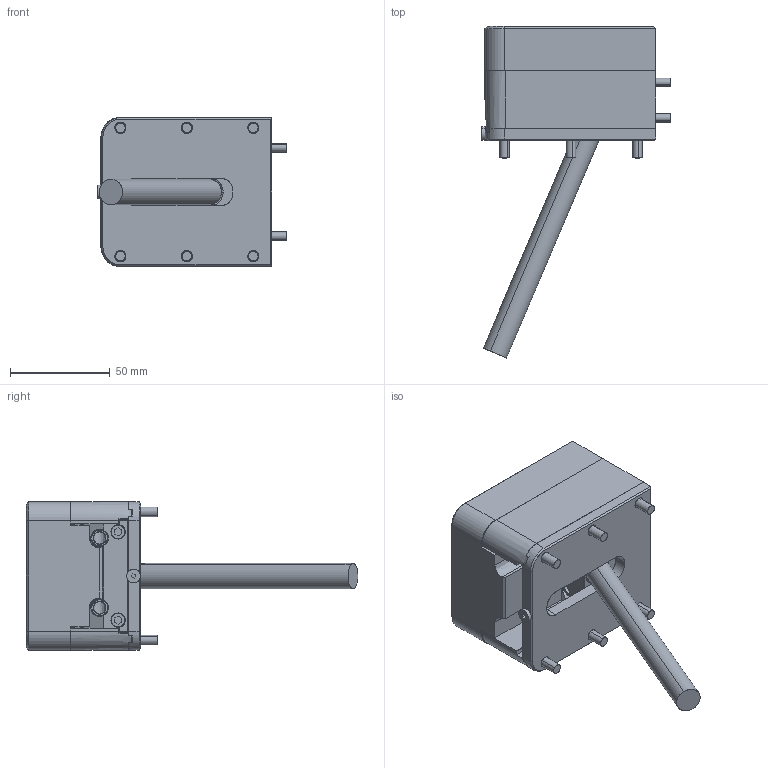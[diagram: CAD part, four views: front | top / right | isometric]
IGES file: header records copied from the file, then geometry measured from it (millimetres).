
Start section: SolidWorks IGES file using analytic representation for surfaces
Global section: file name: C:\temp\GO\Files\SL-30-60.igs; native system: SolidWorks 2023; preprocessor: SolidWorks 2023; author: andrew.sweeney; date: 250805.170953; units: inch
Bounding box: 94.69 x 166.22 x 74.63 mm (x, y, z)
Surface area: 98370.8 mm2 (no closed solid volume)
Topology: 0 solids, 0 shells, 723 faces, 9586 edges, 9570 vertices
Faces by surface type: bspline 382, revolution 341
